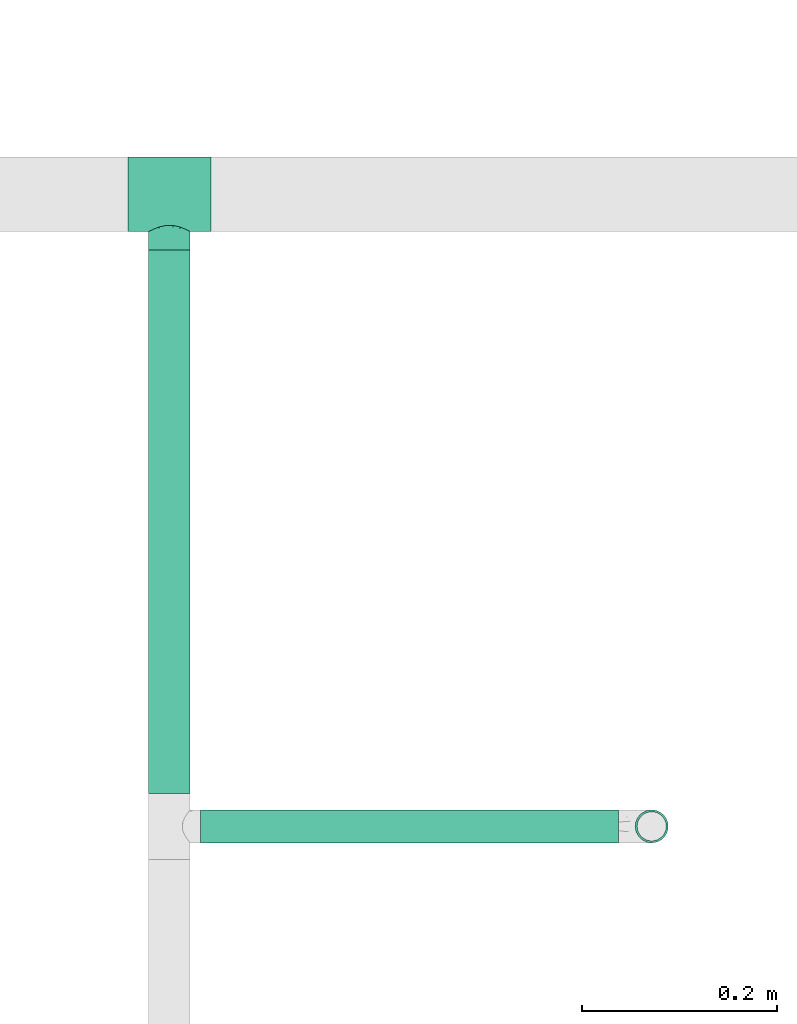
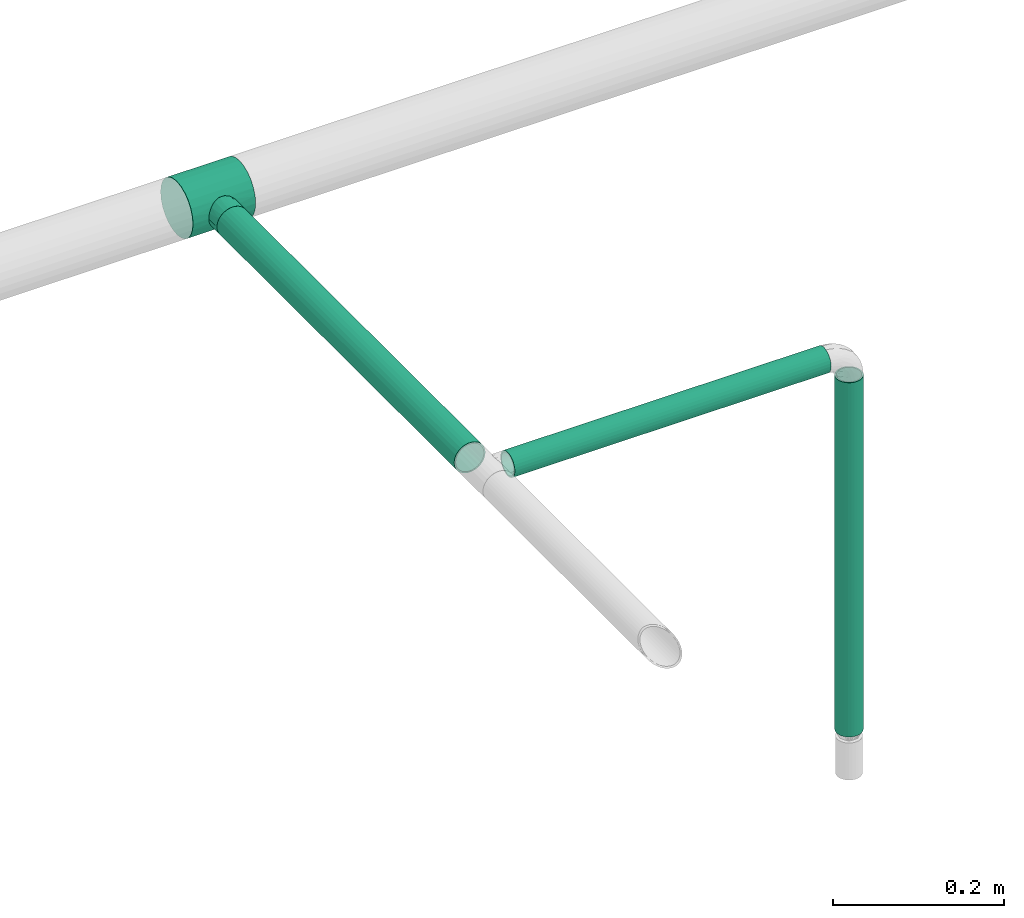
# One storey, part 8 of 95: 3 flow segments, 1 flow fitting.
"""IFC2X3 building model written with IfcOpenShell, lengths in millimetres."""

from ifc_helpers import new_model, entity, si_unit, converted_unit, derived_unit, direction, frame, origin_with_axes, origin_2d_with_axis, place, context, subcontext, project, spatial, hollow_circle, extrude, open_shell, surface_model, source, transform, mapped, type_object, element, save


model = new_model("IFC2X3")

# Units and contexts
model_context = context("Model", 3, precision=0.01, world=frame((0.0, 4.29681676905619e-09, 0.0)), true_north=direction((4.01073788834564e-13, 1.0)))
plan_context = context("Plan", 3, precision=0.01, world=frame((0.0, 4.29681676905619e-09, 0.0)), true_north=direction((4.01073788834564e-13, 1.0)))
body_context = subcontext(model_context, "Body", "Model", "MODEL_VIEW")
ifc_project = project(units=[converted_unit("PLANEANGLEUNIT", "DEGREE", entity("IfcPositiveLengthMeasure", 0.0174532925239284), si_unit("PLANEANGLEUNIT", "RADIAN"), dimensions=[0, 0, 0, 0, 0, 0, 0]), si_unit("AREAUNIT", "SQUARE_METRE"), si_unit("LENGTHUNIT", "METRE", prefix="MILLI"), si_unit("MASSUNIT", "GRAM", prefix="KILO"), si_unit("POWERUNIT", "WATT"), si_unit("PRESSUREUNIT", "PASCAL"), si_unit("FORCEUNIT", "NEWTON", prefix="KILO"), si_unit("ELECTRICVOLTAGEUNIT", "VOLT"), si_unit("ELECTRICCURRENTUNIT", "AMPERE"), si_unit("THERMODYNAMICTEMPERATUREUNIT", "DEGREE_CELSIUS"), si_unit("TIMEUNIT", "SECOND"), si_unit("VOLUMEUNIT", "CUBIC_METRE"), derived_unit("LINEARVELOCITYUNIT", [(si_unit("LENGTHUNIT", "METRE"), 1), (si_unit("TIMEUNIT", "SECOND"), -1)]), derived_unit("VOLUMETRICFLOWRATEUNIT", [(si_unit("VOLUMEUNIT", "CUBIC_METRE"), 1), (si_unit("TIMEUNIT", "SECOND"), -1)]), derived_unit("THERMALTRANSMITTANCEUNIT", [(si_unit("POWERUNIT", "WATT"), 1), (si_unit("THERMODYNAMICTEMPERATUREUNIT", "KELVIN"), -1), (si_unit("AREAUNIT", "SQUARE_METRE"), -1)]), derived_unit("SOUNDPRESSUREUNIT", [(si_unit("PRESSUREUNIT", "PASCAL"), 1)])], contexts=[model_context, plan_context])

# Site, building, storey
site_placement = place(None, frame((0.0, -4.29681676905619e-09, 0.0), z_axis=(0.0, 0.0, 1.0), x_axis=(1.0, 0.0, 0.0)))
site = spatial("IfcSite", under=ifc_project, at=site_placement, CompositionType="ELEMENT")
building_placement = place(site_placement, frame((0.0, 4.29681676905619e-09, 0.0), z_axis=(0.0, 0.0, 1.0), x_axis=(1.0, 0.0, 0.0)))
building = spatial("IfcBuilding", under=site, at=building_placement, Name="mc-building", CompositionType="ELEMENT")
storey_placement = place(building_placement, frame((0.0, 0.0, 210900.0), z_axis=(0.0, 0.0, 1.0), x_axis=(1.0, 0.0, 0.0)))
storey = spatial("IfcBuildingStorey", under=building, at=storey_placement, Name="Nivå F", CompositionType="ELEMENT", Elevation=210900.0)

# Flow fitting
pipe_fitting_type = type_object("IfcPipeFittingType", Name="magi_pipe_fe_tee_centric_90_NOR", PredefinedType="JUNCTION")
shared_shape_1 = source(origin_with_axes(), body_context, "Body", "SurfaceModel", [
    surface_model("IfcShellBasedSurfaceModel", [(42.4, 0.0, 38.1), (42.4, -38.1, 0.0), (42.4, 19.05, 32.99557), (-42.4, 9.86101, -36.80177), (-42.4, 0.0, -38.1), (-42.4, 36.80177, -9.86101), (-42.4, 19.05, -32.99557), (-42.4, 32.99557, -19.05), (-42.4, 26.94077, -26.94077), (-42.4, -38.1, 0.0), (-42.4, -19.05, -32.99557), (-42.4, -26.94077, -26.94077), (-42.4, -9.86101, -36.80177), (-42.4, -32.99557, -19.05), (-42.4, -36.80177, -9.86101), (-42.4, 38.1, 0.0), (-42.4, 32.99557, 19.05), (-42.4, 36.80177, 9.86101), (-42.4, -36.80177, 9.86101), (-42.4, 19.05, 32.99557), (-42.4, 26.94077, 26.94077), (-42.4, 9.86101, 36.80177), (-42.4, 0.0, 38.1), (-42.4, -26.94077, 26.94077), (-42.4, -32.99557, 19.05), (-42.4, -9.86101, 36.80177), (-42.4, -19.05, 32.99557), (42.4, 26.94077, -26.94077), (42.4, 0.0, -38.1), (42.4, 9.86101, -36.80177), (42.4, 19.05, -32.99557), (42.4, 32.99557, -19.05), (42.4, 36.80177, -9.86101), (42.4, -9.86101, -36.80177), (42.4, -26.94077, -26.94077), (42.4, -19.05, -32.99557), (42.4, -32.99557, -19.05), (42.4, -36.80177, -9.86101), (42.4, 38.1, 0.0), (42.4, 36.80177, 9.86101), (42.4, 32.99557, 19.05), (42.4, 26.94077, 26.94077), (42.4, 9.86101, 36.80177), (42.4, -26.94077, 26.94077), (42.4, -32.99557, 19.05), (42.4, -36.80177, 9.86101), (42.4, -19.05, 32.99557), (42.4, -9.86101, 36.80177), (42.4, -37.45089, 4.9305), (19.87843, -37.38077, 7.36803), (20.53922, -37.74039, 3.68402), (16.19602, -35.55954, 13.67951), (3.75245, -31.87869, 20.86526), (21.2, -38.1, 0.0), (42.4, -34.89867, 14.4555), (10.67276, -33.40775, 18.31754), (-10.67466, -33.40836, 18.31643), (-42.4, -34.89867, 14.4555), (-16.20118, -35.56189, 13.6734), (-19.87911, -37.38113, 7.36619), (-42.4, -37.45089, 4.9305), (-20.53956, -37.74057, 3.6831), (-21.2, -38.1, 0.0), (-3.75861, -31.87942, 20.86415), (-42.4, -37.45089, -4.9305), (-19.87911, -37.38113, -7.36619), (-20.53956, -37.74057, -3.6831), (10.67276, -33.40775, -18.31754), (42.4, -34.89867, -14.4555), (16.19602, -35.55954, -13.67951), (20.53922, -37.74039, -3.68402), (42.4, -37.45089, -4.9305), (3.75245, -31.87869, -20.86526), (19.87843, -37.38077, -7.36803), (-3.75861, -31.87942, -20.86415), (-10.67466, -33.40836, -18.31643), (-16.20118, -35.56189, -13.6734), (-42.4, -34.89867, -14.4555), (14.99066, -57.15, -14.99066), (0.0, -57.15, -21.2), (5.48696, -57.15, -20.47763), (10.6, -57.15, -18.35974), (18.35974, -57.15, -10.6), (20.47763, -57.15, -5.48696), (-21.2, -57.15, 0.0), (-10.6, -57.15, 18.35974), (-5.48696, -57.15, -20.47763), (-14.99066, -57.15, -14.99066), (-10.6, -57.15, -18.35974), (-18.35974, -57.15, -10.6), (-20.47763, -57.15, -5.48696), (20.47763, -57.15, 5.48696), (18.35974, -57.15, 10.6), (10.6, -57.15, 18.35974), (14.99066, -57.15, 14.99066), (0.0, -57.15, 21.2), (5.48696, -57.15, 20.47763), (-14.99066, -57.15, 14.99066), (-18.35974, -57.15, 10.6), (-20.47763, -57.15, 5.48696), (-5.48696, -57.15, 20.47763), (21.2, -57.15, 0.0), (-7.21663, -32.64389, 19.59029), (-0.00308, -31.87905, 20.86471), (7.21261, -32.64322, 19.5914), (7.21261, -32.64322, -19.5914), (-0.00308, -31.87905, -20.86471), (-7.21663, -32.64389, -19.59029)], [open_shell([[[0, 1, 2]], [[3, 4, 5]], [[6, 3, 5]], [[5, 7, 8]], [[6, 5, 8]], [[9, 5, 4]], [[10, 11, 12]], [[11, 4, 12]], [[13, 14, 11]], [[9, 11, 14]], [[11, 9, 4]], [[9, 15, 5]], [[16, 17, 15]], [[18, 16, 9]], [[19, 16, 18]], [[20, 16, 19]], [[21, 19, 22]], [[23, 22, 24]], [[19, 18, 24]], [[25, 22, 26]], [[23, 26, 22]], [[24, 22, 19]], [[15, 9, 16]], [[27, 28, 29]], [[27, 29, 30]], [[27, 31, 32]], [[28, 27, 1]], [[1, 27, 32]], [[33, 34, 35]], [[33, 28, 34]], [[36, 1, 37]], [[1, 36, 34]], [[28, 1, 34]], [[32, 38, 1]], [[38, 39, 40]], [[40, 2, 1]], [[2, 40, 41]], [[42, 0, 2]], [[1, 43, 44]], [[44, 45, 1]], [[46, 0, 47]], [[46, 43, 1]], [[1, 0, 46]], [[40, 1, 38]], [[48, 45, 49]], [[1, 48, 50]], [[45, 51, 49]], [[44, 43, 52]], [[1, 50, 53]], [[51, 54, 55]], [[52, 55, 44]], [[48, 49, 50]], [[43, 23, 52]], [[55, 54, 44]], [[56, 57, 58]], [[59, 60, 61]], [[62, 61, 9]], [[59, 58, 18]], [[56, 63, 24]], [[51, 45, 54]], [[24, 57, 56]], [[24, 63, 23]], [[58, 57, 18]], [[63, 52, 23]], [[9, 61, 60]], [[59, 18, 60]], [[43, 26, 23]], [[22, 47, 0]], [[25, 46, 47]], [[21, 0, 42]], [[40, 39, 17]], [[20, 2, 41]], [[16, 41, 40]], [[42, 2, 19]], [[15, 39, 38]], [[26, 46, 25]], [[25, 47, 22]], [[21, 22, 0]], [[42, 19, 21]], [[19, 2, 20]], [[16, 20, 41]], [[17, 16, 40]], [[39, 15, 17]], [[46, 26, 43]], [[15, 38, 32]], [[31, 27, 8]], [[64, 65, 66]], [[5, 32, 31]], [[28, 33, 12]], [[3, 30, 29]], [[4, 29, 28]], [[30, 6, 27]], [[10, 33, 35]], [[67, 68, 69]], [[5, 31, 7]], [[15, 32, 5]], [[1, 70, 71]], [[7, 31, 8]], [[8, 27, 6]], [[6, 30, 3]], [[4, 3, 29]], [[12, 4, 28]], [[33, 10, 12]], [[35, 11, 10]], [[34, 36, 72]], [[9, 66, 62]], [[67, 72, 36]], [[68, 67, 36]], [[34, 72, 11]], [[53, 70, 1]], [[73, 69, 37]], [[73, 71, 70]], [[73, 37, 71]], [[37, 69, 68]], [[74, 75, 13]], [[76, 14, 77]], [[13, 11, 74]], [[76, 77, 75]], [[74, 11, 72]], [[76, 65, 14]], [[65, 64, 14]], [[66, 9, 64]], [[77, 13, 75]], [[34, 11, 35]], [[78, 79, 80]], [[78, 80, 81]], [[78, 82, 83]], [[78, 83, 79]], [[84, 79, 85]], [[86, 87, 88]], [[86, 79, 87]], [[89, 84, 90]], [[87, 79, 89]], [[79, 84, 89]], [[79, 83, 85]], [[91, 92, 83]], [[92, 93, 83]], [[93, 85, 83]], [[93, 92, 94]], [[95, 93, 96]], [[84, 97, 98]], [[99, 84, 98]], [[85, 95, 100]], [[85, 97, 84]], [[93, 95, 85]], [[83, 101, 91]], [[99, 61, 84]], [[58, 98, 97]], [[99, 98, 59]], [[97, 85, 56]], [[61, 62, 84]], [[59, 98, 58]], [[100, 63, 102]], [[56, 58, 97]], [[95, 52, 103]], [[93, 104, 96]], [[102, 85, 100]], [[102, 56, 85]], [[99, 59, 61]], [[96, 52, 95]], [[49, 92, 91]], [[50, 101, 53]], [[50, 49, 91]], [[94, 92, 51]], [[95, 63, 100]], [[104, 52, 96]], [[93, 55, 104]], [[93, 94, 55]], [[55, 94, 51]], [[51, 92, 49]], [[101, 50, 91]], [[103, 63, 95]], [[83, 70, 101]], [[69, 82, 78]], [[83, 82, 73]], [[78, 81, 67]], [[70, 53, 101]], [[73, 82, 69]], [[80, 72, 105]], [[67, 69, 78]], [[79, 74, 106]], [[88, 107, 86]], [[66, 84, 62]], [[105, 81, 80]], [[105, 67, 81]], [[75, 88, 87]], [[83, 73, 70]], [[90, 65, 89]], [[89, 76, 87]], [[66, 65, 90]], [[79, 72, 80]], [[86, 107, 74]], [[74, 79, 86]], [[75, 107, 88]], [[75, 87, 76]], [[76, 89, 65]], [[84, 66, 90]], [[106, 72, 79]]])]),
])
flow_fitting_placement = place(storey_placement, frame((530010.01659, 441860.92369, 4310.0), z_axis=(0.0, 0.0, -1.0), x_axis=(-1.0, 0.0, 0.0)))
element("IfcFlowFitting", 1, at=flow_fitting_placement, inside=storey, type_object=pipe_fitting_type, Name="magi_pipe_fe_tee_centric_90_NOR", context=body_context, shape_type="MappedRepresentation", body=[
    mapped(shared_shape_1, transform((0.0, 0.0, 0.0), scale=1.0)),
])

# Flow segments
pipe_segment_type = type_object("IfcPipeSegmentType", Name="Stålrør normaltykke", PredefinedType="RIGIDSEGMENT")
shared_shape_2 = source(origin_with_axes(), body_context, "Body", "SweptSolid", [
    extrude(hollow_circle(Radius=16.9, WallThickness=2.0, at=origin_2d_with_axis()), frame((0.0, 0.0, 0.0), z_axis=(1.0, 0.0, 0.0), x_axis=(0.0, 1.0, 0.0)), (0.0, 0.0, 1.0), 506.9),
])
flow_segment_1_placement = place(storey_placement, frame((530503.84755, 441213.77142, 4276.20000000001), z_axis=(0.0, -1.0, 0.0), x_axis=(0.0, 0.0, -1.0)))
element("IfcFlowSegment", 2, at=flow_segment_1_placement, inside=storey, type_object=pipe_segment_type, Name="Stålrør normaltykke", context=body_context, shape_type="MappedRepresentation", body=[
    mapped(shared_shape_2, transform((0.0, 0.0, 0.0), scale=1.0)),
])
shared_shape_3 = source(origin_with_axes(), body_context, "Body", "SweptSolid", [
    extrude(hollow_circle(Radius=16.9, WallThickness=2.0, at=origin_2d_with_axis()), frame((0.0, 0.0, 0.0), z_axis=(1.0, 0.0, 0.0), x_axis=(0.0, 1.0, 0.0)), (0.0, 0.0, 1.0), 428.2),
])
flow_segment_2_placement = place(storey_placement, frame((530041.81659, 441213.77142, 4310.0), z_axis=(0.0, 0.0, 1.0), x_axis=(1.0, 0.0, 0.0)))
element("IfcFlowSegment", 3, at=flow_segment_2_placement, inside=storey, type_object=pipe_segment_type, Name="Stålrør normaltykke", context=body_context, shape_type="MappedRepresentation", body=[
    mapped(shared_shape_3, transform((0.0, 0.0, 0.0), scale=1.0)),
])
shared_shape_4 = source(origin_with_axes(), body_context, "Body", "SweptSolid", [
    extrude(hollow_circle(Radius=21.2, WallThickness=2.0, at=origin_2d_with_axis()), frame((0.0, 0.0, 0.0), z_axis=(1.0, 0.0, 0.0), x_axis=(0.0, 1.0, 0.0)), (0.0, 0.0, 1.0), 556.2),
])
flow_segment_3_placement = place(storey_placement, frame((530010.01659, 441803.77369, 4310.0), z_axis=(0.0, 0.0, 1.0), x_axis=(0.0, -1.0, 0.0)))
element("IfcFlowSegment", 4, at=flow_segment_3_placement, inside=storey, type_object=pipe_segment_type, Name="Stålrør normaltykke", context=body_context, shape_type="MappedRepresentation", body=[
    mapped(shared_shape_4, transform((0.0, 0.0, 0.0), scale=1.0)),
])

save(model, "model.ifc")
